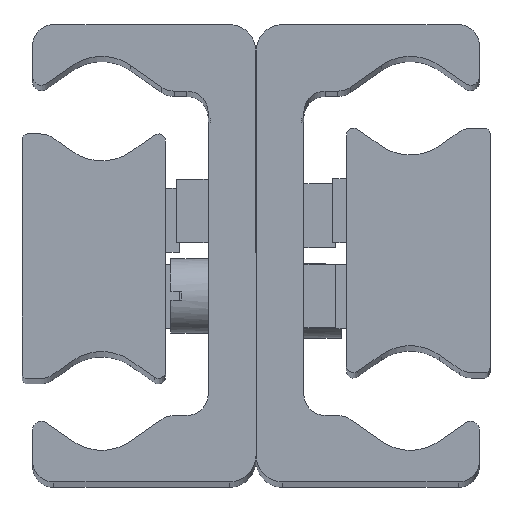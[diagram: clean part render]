
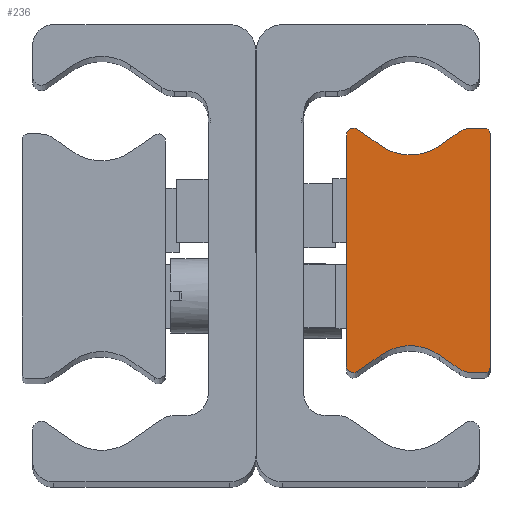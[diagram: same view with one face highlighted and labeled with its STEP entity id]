
A CAD part, top view. The second image highlights one B-rep face of the part: STEP entity #236.
In plain terms, the highlighted planar face has unit normal (0, 0, 1) as drawn and (0, 0, -1) by its records, which use the part's own axes.
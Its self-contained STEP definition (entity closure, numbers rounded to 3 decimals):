
#236 = ADVANCED_FACE( '', ( #544 ), #545, .F. );
#544 = FACE_OUTER_BOUND( '', #994, .T. );
#545 = PLANE( '', #995 );
#994 = EDGE_LOOP( '', ( #1464, #1465, #1466, #1467, #1468, #1469, #1470, #1471, #1472, #1473, #1474, #1475, #1476, #1477, #1478, #1479 ) );
#995 = AXIS2_PLACEMENT_3D( '', #1480, #1481, #1482 );
#1464 = ORIENTED_EDGE( '', *, *, #2545, .F. );
#1465 = ORIENTED_EDGE( '', *, *, #2546, .F. );
#1466 = ORIENTED_EDGE( '', *, *, #2547, .F. );
#1467 = ORIENTED_EDGE( '', *, *, #2548, .F. );
#1468 = ORIENTED_EDGE( '', *, *, #2549, .F. );
#1469 = ORIENTED_EDGE( '', *, *, #2550, .T. );
#1470 = ORIENTED_EDGE( '', *, *, #2551, .F. );
#1471 = ORIENTED_EDGE( '', *, *, #2552, .F. );
#1472 = ORIENTED_EDGE( '', *, *, #2553, .F. );
#1473 = ORIENTED_EDGE( '', *, *, #2554, .F. );
#1474 = ORIENTED_EDGE( '', *, *, #2555, .F. );
#1475 = ORIENTED_EDGE( '', *, *, #2556, .T. );
#1476 = ORIENTED_EDGE( '', *, *, #2557, .F. );
#1477 = ORIENTED_EDGE( '', *, *, #2558, .F. );
#1478 = ORIENTED_EDGE( '', *, *, #2559, .F. );
#1479 = ORIENTED_EDGE( '', *, *, #2560, .F. );
#1480 = CARTESIAN_POINT( '', ( 0.5, -11., -290. ) );
#1481 = DIRECTION( '', ( 0., 0., 1. ) );
#1482 = DIRECTION( '', ( 1., 0., 0. ) );
#2545 = EDGE_CURVE( '', #2992, #2993, #2994, .T. );
#2546 = EDGE_CURVE( '', #2995, #2992, #2996, .T. );
#2547 = EDGE_CURVE( '', #2997, #2995, #2998, .T. );
#2548 = EDGE_CURVE( '', #2999, #2997, #3000, .T. );
#2549 = EDGE_CURVE( '', #3001, #2999, #3002, .T. );
#2550 = EDGE_CURVE( '', #3001, #3003, #3004, .T. );
#2551 = EDGE_CURVE( '', #3005, #3003, #3006, .T. );
#2552 = EDGE_CURVE( '', #3007, #3005, #3008, .T. );
#2553 = EDGE_CURVE( '', #3009, #3007, #3010, .T. );
#2554 = EDGE_CURVE( '', #3011, #3009, #3012, .T. );
#2555 = EDGE_CURVE( '', #3013, #3011, #3014, .T. );
#2556 = EDGE_CURVE( '', #3013, #3015, #3016, .T. );
#2557 = EDGE_CURVE( '', #3017, #3015, #3018, .T. );
#2558 = EDGE_CURVE( '', #3019, #3017, #3020, .T. );
#2559 = EDGE_CURVE( '', #3021, #3019, #3022, .T. );
#2560 = EDGE_CURVE( '', #2993, #3021, #3023, .T. );
#2992 = VERTEX_POINT( '', #3645 );
#2993 = VERTEX_POINT( '', #3646 );
#2994 = LINE( '', #3647, #3648 );
#2995 = VERTEX_POINT( '', #3649 );
#2996 = CIRCLE( '', #3650, 0.5 );
#2997 = VERTEX_POINT( '', #3651 );
#2998 = LINE( '', #3652, #3653 );
#2999 = VERTEX_POINT( '', #3654 );
#3000 = CIRCLE( '', #3655, 2. );
#3001 = VERTEX_POINT( '', #3656 );
#3002 = LINE( '', #3657, #3658 );
#3003 = VERTEX_POINT( '', #3659 );
#3004 = CIRCLE( '', #3660, 4.763 );
#3005 = VERTEX_POINT( '', #3661 );
#3006 = LINE( '', #3662, #3663 );
#3007 = VERTEX_POINT( '', #3664 );
#3008 = CIRCLE( '', #3665, 0.668 );
#3009 = VERTEX_POINT( '', #3666 );
#3010 = LINE( '', #3667, #3668 );
#3011 = VERTEX_POINT( '', #3669 );
#3012 = CIRCLE( '', #3670, 0.668 );
#3013 = VERTEX_POINT( '', #3671 );
#3014 = LINE( '', #3672, #3673 );
#3015 = VERTEX_POINT( '', #3674 );
#3016 = CIRCLE( '', #3675, 4.763 );
#3017 = VERTEX_POINT( '', #3676 );
#3018 = LINE( '', #3677, #3678 );
#3019 = VERTEX_POINT( '', #3679 );
#3020 = CIRCLE( '', #3680, 2. );
#3021 = VERTEX_POINT( '', #3681 );
#3022 = LINE( '', #3682, #3683 );
#3023 = CIRCLE( '', #3684, 0.5 );
#3645 = CARTESIAN_POINT( '', ( 0., 11., -290. ) );
#3646 = CARTESIAN_POINT( '', ( 0., -11., -290. ) );
#3647 = CARTESIAN_POINT( '', ( 0., 11., -290. ) );
#3648 = VECTOR( '', #4428, 1000. );
#3649 = CARTESIAN_POINT( '', ( 0.5, 11.5, -290. ) );
#3650 = AXIS2_PLACEMENT_3D( '', #4429, #4430, #4431 );
#3651 = CARTESIAN_POINT( '', ( 1.748, 11.5, -290. ) );
#3652 = CARTESIAN_POINT( '', ( 1.748, 11.5, -290. ) );
#3653 = VECTOR( '', #4432, 1000. );
#3654 = CARTESIAN_POINT( '', ( 2.895, 11.138, -290. ) );
#3655 = AXIS2_PLACEMENT_3D( '', #4433, #4434, #4435 );
#3656 = CARTESIAN_POINT( '', ( 4.768, 9.827, -290. ) );
#3657 = CARTESIAN_POINT( '', ( 4.768, 9.827, -290. ) );
#3658 = VECTOR( '', #4436, 1000. );
#3659 = CARTESIAN_POINT( '', ( 10.232, 9.827, -290. ) );
#3660 = AXIS2_PLACEMENT_3D( '', #4437, #4438, #4439 );
#3661 = CARTESIAN_POINT( '', ( 12.449, 11.379, -290. ) );
#3662 = CARTESIAN_POINT( '', ( 12.449, 11.379, -290. ) );
#3663 = VECTOR( '', #4440, 1000. );
#3664 = CARTESIAN_POINT( '', ( 13.5, 10.832, -290. ) );
#3665 = AXIS2_PLACEMENT_3D( '', #4441, #4442, #4443 );
#3666 = CARTESIAN_POINT( '', ( 13.5, -10.832, -290. ) );
#3667 = CARTESIAN_POINT( '', ( 13.5, -10.832, -290. ) );
#3668 = VECTOR( '', #4444, 1000. );
#3669 = CARTESIAN_POINT( '', ( 12.449, -11.379, -290. ) );
#3670 = AXIS2_PLACEMENT_3D( '', #4445, #4446, #4447 );
#3671 = CARTESIAN_POINT( '', ( 10.232, -9.827, -290. ) );
#3672 = CARTESIAN_POINT( '', ( 10.232, -9.827, -290. ) );
#3673 = VECTOR( '', #4448, 1000. );
#3674 = CARTESIAN_POINT( '', ( 4.768, -9.827, -290. ) );
#3675 = AXIS2_PLACEMENT_3D( '', #4449, #4450, #4451 );
#3676 = CARTESIAN_POINT( '', ( 2.895, -11.138, -290. ) );
#3677 = CARTESIAN_POINT( '', ( 2.895, -11.138, -290. ) );
#3678 = VECTOR( '', #4452, 1000. );
#3679 = CARTESIAN_POINT( '', ( 1.748, -11.5, -290. ) );
#3680 = AXIS2_PLACEMENT_3D( '', #4453, #4454, #4455 );
#3681 = CARTESIAN_POINT( '', ( 0.5, -11.5, -290. ) );
#3682 = CARTESIAN_POINT( '', ( 0.5, -11.5, -290. ) );
#3683 = VECTOR( '', #4456, 1000. );
#3684 = AXIS2_PLACEMENT_3D( '', #4457, #4458, #4459 );
#4428 = DIRECTION( '', ( 0., -1., 0. ) );
#4429 = CARTESIAN_POINT( '', ( 0.5, 11., -290. ) );
#4430 = DIRECTION( '', ( 0., 0., 1. ) );
#4431 = DIRECTION( '', ( 1., 0., 0. ) );
#4432 = DIRECTION( '', ( -1., 0., 0. ) );
#4433 = CARTESIAN_POINT( '', ( 1.748, 9.5, -290. ) );
#4434 = DIRECTION( '', ( 0., 0., 1. ) );
#4435 = DIRECTION( '', ( 1., 0., 0. ) );
#4436 = DIRECTION( '', ( -0.819, 0.574, 0. ) );
#4437 = CARTESIAN_POINT( '', ( 7.5, 13.729, -290. ) );
#4438 = DIRECTION( '', ( 0., 0., 1. ) );
#4439 = DIRECTION( '', ( 1., 0., 0. ) );
#4440 = DIRECTION( '', ( -0.819, -0.574, 0. ) );
#4441 = CARTESIAN_POINT( '', ( 12.832, 10.832, -290. ) );
#4442 = DIRECTION( '', ( 0., 0., 1. ) );
#4443 = DIRECTION( '', ( 1., 0., 0. ) );
#4444 = DIRECTION( '', ( 0., 1., 0. ) );
#4445 = CARTESIAN_POINT( '', ( 12.832, -10.832, -290. ) );
#4446 = DIRECTION( '', ( 0., 0., 1. ) );
#4447 = DIRECTION( '', ( 1., 0., 0. ) );
#4448 = DIRECTION( '', ( 0.819, -0.574, 0. ) );
#4449 = CARTESIAN_POINT( '', ( 7.5, -13.729, -290. ) );
#4450 = DIRECTION( '', ( 0., 0., 1. ) );
#4451 = DIRECTION( '', ( 1., 0., 0. ) );
#4452 = DIRECTION( '', ( 0.819, 0.574, 0. ) );
#4453 = CARTESIAN_POINT( '', ( 1.748, -9.5, -290. ) );
#4454 = DIRECTION( '', ( 0., 0., 1. ) );
#4455 = DIRECTION( '', ( 1., 0., 0. ) );
#4456 = DIRECTION( '', ( 1., 0., 0. ) );
#4457 = CARTESIAN_POINT( '', ( 0.5, -11., -290. ) );
#4458 = DIRECTION( '', ( 0., 0., 1. ) );
#4459 = DIRECTION( '', ( 1., 0., 0. ) );
